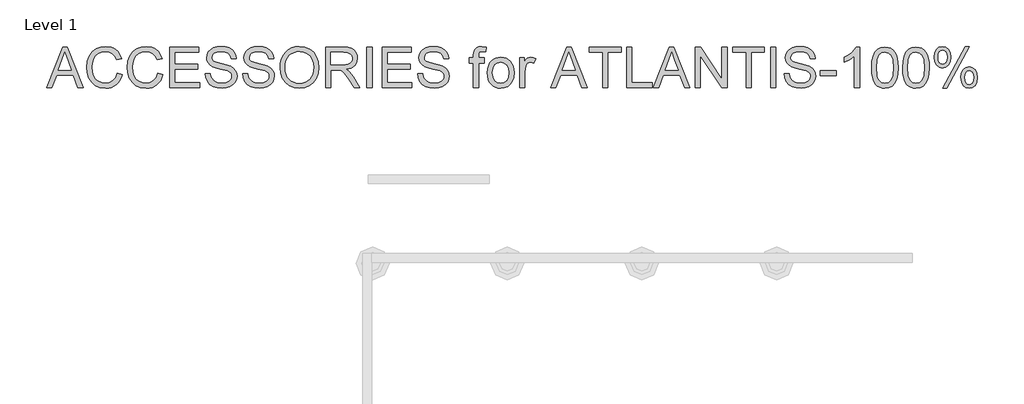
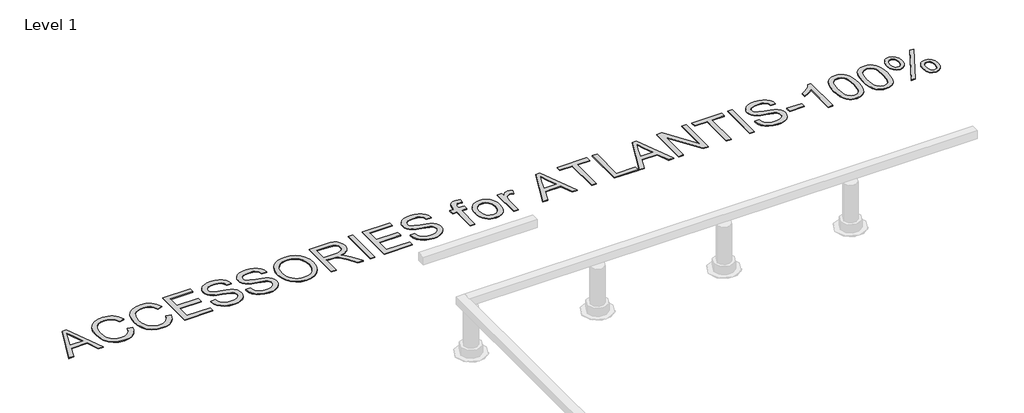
# One storey, part 5 of 6: 1 proxy.
"""IFC4 building model written with IfcOpenShell, lengths in millimetres."""

from ifc_helpers import new_model, si_unit, origin, origin_with_axes, place, context, project, spatial, polyline, outline, extrude, element, save

model = new_model("IFC4")

# Units and contexts
model_context = context("Model", 3, world=origin())
ifc_project = project(units=[si_unit("LENGTHUNIT", "METRE", prefix="MILLI")], contexts=[model_context])

# Site, building, storey
site = spatial("IfcSite", under=ifc_project)
building = spatial("IfcBuilding", under=site)
storey = spatial("IfcBuildingStorey", under=building, Name="Level 1", Elevation=0.0)

# Proxy
placement = place(None, origin())
element("IfcBuildingElementProxy", 1, Name="300mm Arial", ObjectType="300mm Arial", at=placement, inside=storey, context=model_context, shape_type="SweptSolid", body=[
    extrude(outline(polyline([(298.3596666, 106.1819692), (418.657079, 407.5508997), (450.736389, 407.5508997), (571.0338014, 106.1819692), (531.2289695, 106.1819692), (496.7216384, 200.35976), (372.5982532, 200.35976), (338.1644984, 106.1819692), (298.3596666, 106.1819692)]), holes=[polyline([(386.4306162, 238.0308763), (482.9628517, 238.0308763), (455.8131605, 312.1223101), (434.696734, 369.8797834), (415.9347522, 318.5970332), (386.4306162, 238.0308763)])]), origin_with_axes(), (0.0, 0.0, 1.0), 5.0),
    extrude(outline(polyline([(823.1801209, 213.3092062), (860.8512372, 203.5971215), (853.3970283, 180.1699362), (843.4688129, 159.6996025), (831.0665911, 142.1861202), (816.190363, 127.6294895), (799.1758207, 116.1860602), (780.3586566, 108.0121822), (759.7388708, 103.1078553), (737.3164632, 101.4730797), (693.6212792, 106.4210925), (658.92081, 121.265131), (632.3229418, 145.4901604), (612.9355606, 178.5811459), (601.0989574, 217.4846669), (597.153423, 259.1473028), (601.6139922, 303.0908071), (614.9956998, 341.0378349), (636.59957, 371.7835727), (665.7266269, 394.1232068), (700.2707463, 407.7256436), (738.1258036, 412.2597892), (779.4297546, 406.3920714), (797.3984908, 399.0574241), (813.5784008, 388.7889179), (827.7027702, 375.8578658), (839.5048844, 360.5355807), (856.1423476, 322.7173116), (818.4712313, 313.7409909), (805.4114205, 341.2125789), (787.5691437, 360.0573341), (764.7236718, 370.9558382), (736.6542756, 374.5886729), (704.2990541, 370.5603651), (677.71958, 358.4754415), (657.5504496, 339.6030952), (644.4262594, 315.2125189), (637.2249694, 287.6397633), (634.8245393, 259.2208792), (637.6664278, 224.4192425), (646.192093, 194.3264953), (660.7234318, 170.0922688), (681.5823409, 152.8661944), (706.5891196, 142.5746956), (733.5640668, 139.144196), (765.0087804, 143.8162973), (791.2111755, 157.8326013), (810.9940298, 181.0459552), (823.1801209, 213.3092062)])), origin_with_axes(), (0.0, 0.0, 1.0), 5.0),
    extrude(outline(polyline([(1124.5490513, 213.3092062), (1162.2201676, 203.5971215), (1154.7659587, 180.1699362), (1144.8377434, 159.6996025), (1132.4355216, 142.1861202), (1117.5592934, 127.6294895), (1100.5447511, 116.1860602), (1081.7275871, 108.0121822), (1061.1078013, 103.1078553), (1038.6853936, 101.4730797), (994.9902097, 106.4210925), (960.2897405, 121.265131), (933.6918722, 145.4901604), (914.3044911, 178.5811459), (902.4678879, 217.4846669), (898.5223535, 259.1473028), (902.9829227, 303.0908071), (916.3646303, 341.0378349), (937.9685004, 371.7835727), (967.0955574, 394.1232068), (1001.6396767, 407.7256436), (1039.494734, 412.2597892), (1080.798685, 406.3920714), (1098.7674212, 399.0574241), (1114.9473312, 388.7889179), (1129.0717006, 375.8578658), (1140.8738149, 360.5355807), (1157.5112781, 322.7173116), (1119.8401618, 313.7409909), (1106.780351, 341.2125789), (1088.9380742, 360.0573341), (1066.0926023, 370.9558382), (1038.0232061, 374.5886729), (1005.6679846, 370.5603651), (979.0885104, 358.4754415), (958.91938, 339.6030952), (945.7951899, 315.2125189), (938.5938998, 287.6397633), (936.1934698, 259.2208792), (939.0353582, 224.4192425), (947.5610234, 194.3264953), (962.0923623, 170.0922688), (982.9512714, 152.8661944), (1007.95805, 142.5746956), (1034.9329973, 139.144196), (1066.3777108, 143.8162973), (1092.5801059, 157.8326013), (1112.3629602, 181.0459552), (1124.5490513, 213.3092062)])), origin_with_axes(), (0.0, 0.0, 1.0), 5.0),
    extrude(outline(polyline([(1214.0179526, 106.1819692), (1214.0179526, 407.5508997), (1430.6268713, 407.5508997), (1430.6268713, 369.8797834), (1251.6890689, 369.8797834), (1251.6890689, 280.4108821), (1421.2090922, 280.4108821), (1421.2090922, 242.7397658), (1251.6890689, 242.7397658), (1251.6890689, 143.8530855), (1435.3357608, 143.8530855), (1435.3357608, 106.1819692), (1214.0179526, 106.1819692)])), origin_with_axes(), (0.0, 0.0, 1.0), 5.0),
    extrude(outline(polyline([(1477.7157667, 209.7775391), (1515.386883, 209.7775391), (1519.7094964, 188.8726447), (1527.5269888, 172.0696346), (1539.722277, 158.7339122), (1557.1782777, 148.2308813), (1578.5154334, 141.4158673), (1602.3541867, 139.144196), (1623.3418545, 140.8640443), (1641.7175601, 146.0235893), (1656.6075839, 154.1905696), (1667.138206, 164.9327239), (1673.401397, 177.2659677), (1675.4891273, 190.2062169), (1673.9256288, 202.8153723), (1669.2351334, 213.7138764), (1659.7069897, 223.0120938), (1643.6305465, 230.8203892), (1588.779341, 245.2045752), (1552.7728908, 254.7235218), (1529.7342808, 263.782616), (1510.9814961, 276.4561507), (1497.691759, 291.815224), (1489.7730991, 309.5287421), (1487.1335458, 329.2656111), (1490.3984985, 351.3293338), (1500.1933566, 371.9031343), (1516.2606027, 389.3407409), (1538.3427195, 401.9958815), (1564.8486173, 409.6938123), (1594.1872064, 412.2597892), (1625.9722107, 409.5742506), (1653.7840896, 401.517635), (1676.6295615, 388.255489), (1693.5153451, 369.9533598), (1704.202317, 347.7516814), (1708.4513541, 322.790888), (1670.7802378, 322.790888), (1663.8640563, 345.2684779), (1649.443082, 361.4920739), (1626.9103098, 371.3145231), (1595.6587343, 374.5886729), (1563.6713949, 371.3513113), (1541.7272339, 361.6392267), (1529.035305, 347.3470112), (1524.8046621, 330.3692571), (1527.8029003, 315.8931006), (1536.7976151, 304.2496354), (1558.0611944, 293.838575), (1598.3074847, 283.2067853), (1639.841362, 273.1084245), (1664.9677022, 264.2976508), (1686.4428137, 250.6308346), (1701.424808, 233.7634452), (1710.2263847, 213.8794233), (1713.1602436, 191.1627101), (1709.7849263, 167.9401592), (1699.6589744, 146.0971657), (1683.1962551, 127.2983957), (1660.8106357, 113.2085153), (1633.8908707, 104.4069386), (1603.8257146, 101.4730797), (1566.9179535, 104.6368648), (1536.5400977, 114.1282203), (1512.3426595, 129.9839343), (1493.9761509, 152.240795), (1482.1855329, 179.3536981), (1477.7157667, 209.7775391)])), origin_with_axes(), (0.0, 0.0, 1.0), 5.0),
    extrude(outline(polyline([(1755.5402495, 209.7775391), (1793.2113658, 209.7775391), (1797.5339792, 188.8726447), (1805.3514716, 172.0696346), (1817.5467597, 158.7339122), (1835.0027604, 148.2308813), (1856.3399161, 141.4158673), (1880.1786694, 139.144196), (1901.1663372, 140.8640443), (1919.5420429, 146.0235893), (1934.4320667, 154.1905696), (1944.9626888, 164.9327239), (1951.2258797, 177.2659677), (1953.3136101, 190.2062169), (1951.7501116, 202.8153723), (1947.0596161, 213.7138764), (1937.5314725, 223.0120938), (1921.4550293, 230.8203892), (1866.6038238, 245.2045752), (1830.5973735, 254.7235218), (1807.5587636, 263.782616), (1788.8059789, 276.4561507), (1775.5162418, 291.815224), (1767.5975818, 309.5287421), (1764.9580285, 329.2656111), (1768.2229812, 351.3293338), (1778.0178394, 371.9031343), (1794.0850855, 389.3407409), (1816.1672023, 401.9958815), (1842.6731, 409.6938123), (1872.0116891, 412.2597892), (1903.7966935, 409.5742506), (1931.6085723, 401.517635), (1954.4540442, 388.255489), (1971.3398278, 369.9533598), (1982.0267998, 347.7516814), (1986.2758368, 322.790888), (1948.6047205, 322.790888), (1941.688539, 345.2684779), (1927.2675648, 361.4920739), (1904.7347926, 371.3145231), (1873.4832171, 374.5886729), (1841.4958776, 371.3513113), (1819.5517166, 361.6392267), (1806.8597878, 347.3470112), (1802.6291448, 330.3692571), (1805.6273831, 315.8931006), (1814.6220979, 304.2496354), (1835.8856772, 293.838575), (1876.1319675, 283.2067853), (1917.6658447, 273.1084245), (1942.792185, 264.2976508), (1964.2672965, 250.6308346), (1979.2492907, 233.7634452), (1988.0508675, 213.8794233), (1990.9847264, 191.1627101), (1987.6094091, 167.9401592), (1977.4834571, 146.0971657), (1961.0207379, 127.2983957), (1938.6351185, 113.2085153), (1911.7153535, 104.4069386), (1881.6501974, 101.4730797), (1844.7424362, 104.6368648), (1814.3645805, 114.1282203), (1790.1671422, 129.9839343), (1771.8006336, 152.240795), (1760.0100157, 179.3536981), (1755.5402495, 209.7775391)])), origin_with_axes(), (0.0, 0.0, 1.0), 5.0),
    extrude(outline(polyline([(2033.3647322, 252.8933089), (2035.8755268, 288.2421701), (2043.4079107, 319.5351323), (2055.9618838, 346.7721955), (2073.5374461, 369.9533598), (2095.0815354, 388.4624226), (2119.5410896, 401.6831818), (2146.9161085, 409.6156374), (2177.2065923, 412.2597892), (2216.7355127, 407.2933823), (2252.1809429, 392.3941615), (2281.6115026, 368.6105905), (2303.0958111, 336.991133), (2316.2291983, 299.0624993), (2320.606994, 256.3513997), (2315.9992721, 213.0700829), (2302.1761061, 174.6080203), (2279.9008513, 142.9333805), (2249.9368628, 120.0143322), (2214.7949352, 106.1083928), (2176.9858631, 101.4730797), (2136.8499375, 106.5958365), (2101.2021721, 121.9641068), (2071.8451889, 146.1891362), (2050.5816096, 177.8821701), (2037.6689516, 214.3484729), (2033.3647322, 252.8933089)]), holes=[polyline([(2071.0358485, 252.5254269), (2072.9189445, 227.550838), (2078.5682324, 205.3813492), (2087.9837122, 186.0169607), (2101.1653839, 169.4576724), (2117.1889441, 156.1955265), (2135.1300891, 146.7225651), (2154.9888191, 141.0387883), (2176.7651339, 139.144196), (2198.9139293, 141.0571824), (2219.007184, 146.7961415), (2237.0448981, 156.3610734), (2253.0270715, 169.751978), (2266.1121742, 186.6607542), (2275.4586762, 206.7793008), (2281.0665773, 230.1076178), (2282.9358777, 256.6457053), (2279.7353044, 289.9942081), (2270.1335843, 318.8177624), (2254.3790379, 342.3898013), (2232.7199854, 359.9837577), (2206.5911667, 370.9374441), (2177.4273215, 374.5886729), (2156.407464, 372.8297371), (2136.9051198, 367.5529297), (2118.9202887, 358.7582508), (2102.4529709, 346.4457003), (2088.7079799, 330.0220685), (2078.8901291, 308.8941456), (2072.9994187, 283.0619318), (2071.0358485, 252.5254269)])]), origin_with_axes(), (0.0, 0.0, 1.0), 5.0),
    extrude(outline(polyline([(2372.404779, 106.1819692), (2372.404779, 407.5508997), (2502.2671233, 407.5508997), (2537.1699276, 405.5183516), (2562.5629823, 399.4207076), (2581.1226289, 388.1635185), (2595.525209, 370.6523356), (2604.7682442, 348.9381008), (2607.8492559, 325.0717564), (2602.7448932, 295.3836793), (2587.4318051, 270.7723739), (2575.832026, 260.742991), (2561.4501392, 252.727762), (2524.340043, 242.7397658), (2545.7507751, 226.6265344), (2576.2849807, 187.8517722), (2626.5376612, 106.1819692), (2582.7597038, 106.1819692), (2543.5434831, 168.648332), (2515.2165695, 209.9982683), (2495.3141536, 229.5328022), (2477.3983004, 236.7065011), (2455.5461099, 238.0308763), (2410.0758953, 238.0308763), (2410.0758953, 106.1819692), (2372.404779, 106.1819692)]), holes=[polyline([(2410.0758953, 275.7019926), (2494.3944486, 275.7019926), (2518.6102809, 277.0355648), (2537.3998538, 281.0362815), (2551.5449165, 287.9708571), (2561.8272183, 298.1060061), (2568.0904092, 310.3656736), (2570.1781396, 323.6738048), (2566.195817, 342.0495104), (2554.2488492, 356.8567607), (2533.6934427, 366.6240277), (2503.885804, 369.8797834), (2410.0758953, 369.8797834), (2410.0758953, 275.7019926)])]), origin_with_axes(), (0.0, 0.0, 1.0), 5.0),
    extrude(outline(polyline([(2678.482599, 106.1819692), (2678.482599, 407.5508997), (2716.1537153, 407.5508997), (2716.1537153, 106.1819692), (2678.482599, 106.1819692)])), origin_with_axes(), (0.0, 0.0, 1.0), 5.0),
    extrude(outline(polyline([(2791.4959479, 106.1819692), (2791.4959479, 407.5508997), (3008.1048666, 407.5508997), (3008.1048666, 369.8797834), (2829.1670642, 369.8797834), (2829.1670642, 280.4108821), (2998.6870876, 280.4108821), (2998.6870876, 242.7397658), (2829.1670642, 242.7397658), (2829.1670642, 143.8530855), (3012.8137562, 143.8530855), (3012.8137562, 106.1819692), (2791.4959479, 106.1819692)])), origin_with_axes(), (0.0, 0.0, 1.0), 5.0),
    extrude(outline(polyline([(3055.193762, 209.7775391), (3092.8648783, 209.7775391), (3097.1874918, 188.8726447), (3105.0049842, 172.0696346), (3117.2002723, 158.7339122), (3134.656273, 148.2308813), (3155.9934287, 141.4158673), (3179.832182, 139.144196), (3200.8198498, 140.8640443), (3219.1955555, 146.0235893), (3234.0855792, 154.1905696), (3244.6162013, 164.9327239), (3250.8793923, 177.2659677), (3252.9671226, 190.2062169), (3251.4036241, 202.8153723), (3246.7131287, 213.7138764), (3237.184985, 223.0120938), (3221.1085418, 230.8203892), (3166.2573364, 245.2045752), (3130.2508861, 254.7235218), (3107.2122761, 263.782616), (3088.4594914, 276.4561507), (3075.1697543, 291.815224), (3067.2510944, 309.5287421), (3064.6115411, 329.2656111), (3067.8764938, 351.3293338), (3077.6713519, 371.9031343), (3093.7385981, 389.3407409), (3115.8207148, 401.9958815), (3142.3266126, 409.6938123), (3171.6652017, 412.2597892), (3203.4502061, 409.5742506), (3231.2620849, 401.517635), (3254.1075568, 388.255489), (3270.9933404, 369.9533598), (3281.6803123, 347.7516814), (3285.9293494, 322.790888), (3248.2582331, 322.790888), (3241.3420516, 345.2684779), (3226.9210774, 361.4920739), (3204.3883052, 371.3145231), (3173.1367297, 374.5886729), (3141.1493902, 371.3513113), (3119.2052292, 361.6392267), (3106.5133003, 347.3470112), (3102.2826574, 330.3692571), (3105.2808957, 315.8931006), (3114.2756104, 304.2496354), (3135.5391898, 293.838575), (3175.78548, 283.2067853), (3217.3193573, 273.1084245), (3242.4456976, 264.2976508), (3263.920809, 250.6308346), (3278.9028033, 233.7634452), (3287.70438, 213.8794233), (3290.6382389, 191.1627101), (3287.2629216, 167.9401592), (3277.1369697, 146.0971657), (3260.6742504, 127.2983957), (3238.288631, 113.2085153), (3211.368866, 104.4069386), (3181.30371, 101.4730797), (3144.3959488, 104.6368648), (3114.018093, 114.1282203), (3089.8206548, 129.9839343), (3071.4541462, 152.240795), (3059.6635283, 179.3536981), (3055.193762, 209.7775391)])), origin_with_axes(), (0.0, 0.0, 1.0), 5.0),
    extrude(outline(polyline([(3469.5760414, 106.1819692), (3469.5760414, 289.8286612), (3436.6138146, 289.8286612), (3436.6138146, 327.4997775), (3469.5760414, 327.4997775), (3469.5760414, 349.7934264), (3473.5491669, 381.2105488), (3481.127536, 393.7369308), (3492.8261835, 403.6513505), (3509.1969323, 410.1076795), (3530.7916054, 412.2597892), (3565.1517837, 408.1395109), (3559.6335538, 372.8228393), (3537.9285161, 374.5886729), (3523.6087094, 373.0251744), (3514.2001274, 368.334679), (3508.9854001, 359.3767524), (3507.2471577, 345.0109605), (3507.2471577, 327.4997775), (3549.6271635, 327.4997775), (3549.6271635, 289.8286612), (3507.2471577, 289.8286612), (3507.2471577, 106.1819692), (3469.5760414, 106.1819692)])), origin_with_axes(), (0.0, 0.0, 1.0), 5.0),
    extrude(outline(polyline([(3573.1716112, 216.8408734), (3575.2087578, 245.5034793), (3581.3201974, 270.2021568), (3591.5059302, 290.9369057), (3605.765956, 307.7077262), (3620.1225509, 318.4268878), (3635.9690678, 326.0834318), (3653.3055068, 330.6773583), (3672.1318679, 332.2086671), (3692.9149014, 330.3439652), (3711.7067736, 324.7498596), (3728.5074844, 315.4263503), (3743.317034, 302.3734373), (3755.4042568, 286.0325789), (3764.0379874, 266.8452336), (3769.2182257, 244.8114013), (3770.9449718, 219.9310821), (3767.8915513, 181.8736897), (3758.7312896, 152.9029826), (3743.7309012, 131.2071419), (3723.1571007, 114.9743489), (3698.7205391, 104.848397), (3672.1318679, 101.4730797), (3651.0453318, 103.3308838), (3632.0787157, 108.904296), (3615.2320196, 118.1933164), (3600.5052435, 131.1979449), (3588.5467794, 147.6974524), (3580.0050193, 167.4711096), (3574.8799632, 190.5189166), (3573.1716112, 216.8408734)]), holes=[polyline([(3610.8427275, 216.9144498), (3615.2021292, 182.8209859), (3628.2803341, 158.5315771), (3647.9620208, 143.9910413), (3672.1318679, 139.144196), (3696.1913504, 144.0186324), (3715.8362489, 158.6419417), (3728.9144539, 183.2532472), (3733.2738555, 218.0916722), (3728.8868627, 251.1918547), (3715.7258844, 275.1501696), (3696.0533947, 289.6907055), (3672.1318679, 294.5375508), (3647.9620208, 289.7090996), (3628.2803341, 275.223746), (3615.2021292, 250.9895196), (3610.8427275, 216.9144498)])]), origin_with_axes(), (0.0, 0.0, 1.0), 5.0),
    extrude(outline(polyline([(3813.3249777, 106.1819692), (3813.3249777, 327.4997775), (3846.2872044, 327.4997775), (3846.2872044, 294.75828), (3858.4640985, 313.7409909), (3869.6844993, 324.9246036), (3880.9416884, 330.3876512), (3893.228947, 332.2086671), (3911.9909288, 329.3023993), (3931.0472161, 320.583596), (3918.4656519, 286.8120289), (3905.2219001, 292.6061703), (3891.9781482, 294.5375508), (3880.7301562, 292.6797467), (3870.6777807, 287.1063345), (3862.5567857, 278.2403784), (3857.1029351, 266.5049427), (3852.5228043, 245.4620926), (3850.996094, 222.5062561), (3850.996094, 106.1819692), (3813.3249777, 106.1819692)])), origin_with_axes(), (0.0, 0.0, 1.0), 5.0),
    extrude(outline(polyline([(4041.9268495, 106.1819692), (4162.2242619, 407.5508997), (4194.3035719, 407.5508997), (4314.6009843, 106.1819692), (4274.7961524, 106.1819692), (4240.2888213, 200.35976), (4116.1654361, 200.35976), (4081.7316814, 106.1819692), (4041.9268495, 106.1819692)]), holes=[polyline([(4129.9977991, 238.0308763), (4226.5300347, 238.0308763), (4199.3803434, 312.1223101), (4178.2639169, 369.8797834), (4159.5019351, 318.5970332), (4129.9977991, 238.0308763)])]), origin_with_axes(), (0.0, 0.0, 1.0), 5.0),
    extrude(outline(polyline([(4430.1895072, 106.1819692), (4430.1895072, 369.8797834), (4331.3028269, 369.8797834), (4331.3028269, 407.5508997), (4566.7473038, 407.5508997), (4566.7473038, 369.8797834), (4467.8606235, 369.8797834), (4467.8606235, 106.1819692), (4430.1895072, 106.1819692)])), origin_with_axes(), (0.0, 0.0, 1.0), 5.0),
    extrude(outline(polyline([(4609.1273096, 106.1819692), (4609.1273096, 407.5508997), (4646.7984259, 407.5508997), (4646.7984259, 143.8530855), (4797.4828912, 143.8530855), (4797.4828912, 106.1819692), (4609.1273096, 106.1819692)])), origin_with_axes(), (0.0, 0.0, 1.0), 5.0),
    extrude(outline(polyline([(4804.7669547, 106.1819692), (4925.0643671, 407.5508997), (4957.1436771, 407.5508997), (5077.4410895, 106.1819692), (5037.6362576, 106.1819692), (5003.1289265, 200.35976), (4879.0055413, 200.35976), (4844.5717866, 106.1819692), (4804.7669547, 106.1819692)]), holes=[polyline([(4892.8379043, 238.0308763), (4989.3701399, 238.0308763), (4962.2204486, 312.1223101), (4941.1040221, 369.8797834), (4922.3420403, 318.5970332), (4892.8379043, 238.0308763)])]), origin_with_axes(), (0.0, 0.0, 1.0), 5.0),
    extrude(outline(polyline([(5117.6873798, 106.1819692), (5117.6873798, 407.5508997), (5158.0072464, 407.5508997), (5315.4607404, 168.7954848), (5315.4607404, 407.5508997), (5353.1318567, 407.5508997), (5353.1318567, 106.1819692), (5312.81199, 106.1819692), (5155.3584961, 345.0109605), (5155.3584961, 106.1819692), (5117.6873798, 106.1819692)])), origin_with_axes(), (0.0, 0.0, 1.0), 5.0),
    extrude(outline(polyline([(5494.3985428, 106.1819692), (5494.3985428, 369.8797834), (5395.5118625, 369.8797834), (5395.5118625, 407.5508997), (5630.9563394, 407.5508997), (5630.9563394, 369.8797834), (5532.0696591, 369.8797834), (5532.0696591, 106.1819692), (5494.3985428, 106.1819692)])), origin_with_axes(), (0.0, 0.0, 1.0), 5.0),
    extrude(outline(polyline([(5678.0452348, 106.1819692), (5678.0452348, 407.5508997), (5715.7163511, 407.5508997), (5715.7163511, 106.1819692), (5678.0452348, 106.1819692)])), origin_with_axes(), (0.0, 0.0, 1.0), 5.0),
    extrude(outline(polyline([(5776.9319151, 209.7775391), (5814.6030314, 209.7775391), (5818.9256449, 188.8726447), (5826.7431373, 172.0696346), (5838.9384254, 158.7339122), (5856.3944261, 148.2308813), (5877.7315818, 141.4158673), (5901.5703351, 139.144196), (5922.5580029, 140.8640443), (5940.9337086, 146.0235893), (5955.8237323, 154.1905696), (5966.3543544, 164.9327239), (5972.6175454, 177.2659677), (5974.7052757, 190.2062169), (5973.1417773, 202.8153723), (5968.4512818, 213.7138764), (5958.9231381, 223.0120938), (5942.846695, 230.8203892), (5887.9954895, 245.2045752), (5851.9890392, 254.7235218), (5828.9504292, 263.782616), (5810.1976445, 276.4561507), (5796.9079075, 291.815224), (5788.9892475, 309.5287421), (5786.3496942, 329.2656111), (5789.6146469, 351.3293338), (5799.409505, 371.9031343), (5815.4767512, 389.3407409), (5837.5588679, 401.9958815), (5864.0647657, 409.6938123), (5893.4033548, 412.2597892), (5925.1883592, 409.5742506), (5953.000238, 401.517635), (5975.8457099, 388.255489), (5992.7314935, 369.9533598), (6003.4184655, 347.7516814), (6007.6675025, 322.790888), (5969.9963862, 322.790888), (5963.0802047, 345.2684779), (5948.6592305, 361.4920739), (5926.1264583, 371.3145231), (5894.8748828, 374.5886729), (5862.8875433, 371.3513113), (5840.9433823, 361.6392267), (5828.2514535, 347.3470112), (5824.0208105, 330.3692571), (5827.0190488, 315.8931006), (5836.0137636, 304.2496354), (5857.2773429, 293.838575), (5897.5236331, 283.2067853), (5939.0575104, 273.1084245), (5964.1838507, 264.2976508), (5985.6589621, 250.6308346), (6000.6409564, 233.7634452), (6009.4425331, 213.8794233), (6012.376392, 191.1627101), (6009.0010747, 167.9401592), (5998.8751228, 146.0971657), (5982.4124035, 127.2983957), (5960.0267841, 113.2085153), (5933.1070191, 104.4069386), (5903.0418631, 101.4730797), (5866.1341019, 104.6368648), (5835.7562462, 114.1282203), (5811.5588079, 129.9839343), (5793.1922993, 152.240795), (5781.4016814, 179.3536981), (5776.9319151, 209.7775391)])), origin_with_axes(), (0.0, 0.0, 1.0), 5.0),
    extrude(outline(polyline([(6045.3386188, 195.6508705), (6045.3386188, 233.3219868), (6163.0608573, 233.3219868), (6163.0608573, 195.6508705), (6045.3386188, 195.6508705)])), origin_with_axes(), (0.0, 0.0, 1.0), 5.0),
    extrude(outline(polyline([(6337.2897702, 106.1819692), (6299.6186539, 106.1819692), (6299.6186539, 341.0378349), (6263.9341003, 315.6171891), (6224.2764213, 296.5976899), (6224.2764213, 332.2086671), (6253.8633307, 348.3035043), (6279.4955087, 367.4517622), (6299.7014273, 387.8140306), (6313.0095585, 407.5508997), (6337.2897702, 407.5508997), (6337.2897702, 106.1819692)])), origin_with_axes(), (0.0, 0.0, 1.0), 5.0),
    extrude(outline(polyline([(6426.7586714, 254.4384133), (6429.5269834, 302.6769399), (6437.8319195, 341.1481995), (6451.5907061, 370.4408034), (6470.7205698, 391.1433627), (6495.3594665, 403.4490154), (6525.6453517, 407.5508997), (6548.8587056, 405.1228785), (6569.6440383, 397.838815), (6587.0264626, 385.9838177), (6600.0310911, 369.8429952), (6609.8535404, 349.5543031), (6617.6894269, 325.2556974), (6622.8213807, 294.399595), (6624.532032, 254.4384133), (6621.7913112, 206.4757982), (6613.5691486, 168.096509), (6599.8931354, 138.776314), (6580.7908628, 117.9909813), (6556.0967839, 105.6025551), (6525.6453517, 101.4730797), (6504.8968072, 103.2665044), (6486.5027074, 108.6467786), (6470.4630524, 117.6139022), (6456.7778422, 130.1678753), (6443.644455, 152.8615959), (6434.2634641, 181.1379257), (6428.6348696, 214.9968649), (6426.7586714, 254.4384133)]), holes=[polyline([(6464.4297877, 254.5119897), (6468.8443717, 195.2553973), (6474.3626016, 174.9873986), (6482.0881235, 160.9595983), (6501.8065984, 144.5980466), (6525.6453517, 139.144196), (6549.484105, 144.6164407), (6569.2025799, 161.0331747), (6576.9281018, 175.0839677), (6582.4463318, 195.3473678), (6586.8609157, 254.5119897), (6582.5934846, 312.4350098), (6577.2591956, 332.6363299), (6569.7911911, 346.9975233), (6550.1095044, 364.1592183), (6525.2038933, 369.8797834), (6501.6226574, 364.8398), (6482.6767347, 349.71985), (6474.6936954, 334.0848652), (6468.9915245, 313.0052269), (6464.4297877, 254.5119897)])]), origin_with_axes(), (0.0, 0.0, 1.0), 5.0),
    extrude(outline(polyline([(6657.4942588, 254.4384133), (6660.2625708, 302.6769399), (6668.5675068, 341.1481995), (6682.3262935, 370.4408034), (6701.4561572, 391.1433627), (6726.0950538, 403.4490154), (6756.3809391, 407.5508997), (6779.594293, 405.1228785), (6800.3796257, 397.838815), (6817.76205, 385.9838177), (6830.7666785, 369.8429952), (6840.5891278, 349.5543031), (6848.4250143, 325.2556974), (6853.5569681, 294.399595), (6855.2676194, 254.4384133), (6852.5268985, 206.4757982), (6844.3047359, 168.096509), (6830.6287228, 138.776314), (6811.5264502, 117.9909813), (6786.8323712, 105.6025551), (6756.3809391, 101.4730797), (6735.6323946, 103.2665044), (6717.2382948, 108.6467786), (6701.1986398, 117.6139022), (6687.5134296, 130.1678753), (6674.3800424, 152.8615959), (6664.9990515, 181.1379257), (6659.370457, 214.9968649), (6657.4942588, 254.4384133)]), holes=[polyline([(6695.1653751, 254.5119897), (6699.579959, 195.2553973), (6705.098189, 174.9873986), (6712.8237109, 160.9595983), (6732.5421858, 144.5980466), (6756.3809391, 139.144196), (6780.2196924, 144.6164407), (6799.9381673, 161.0331747), (6807.6636892, 175.0839677), (6813.1819191, 195.3473678), (6817.5965031, 254.5119897), (6813.3290719, 312.4350098), (6807.994783, 332.6363299), (6800.5267785, 346.9975233), (6780.8450918, 364.1592183), (6755.9394807, 369.8797834), (6732.3582448, 364.8398), (6713.412322, 349.71985), (6705.4292828, 334.0848652), (6699.7271118, 313.0052269), (6695.1653751, 254.5119897)])]), origin_with_axes(), (0.0, 0.0, 1.0), 5.0),
    extrude(outline(polyline([(7090.7120963, 183.6579174), (7094.5656602, 213.815044), (7106.1263519, 238.9505813), (7114.7094987, 248.8489062), (7125.0446835, 255.9191383), (7150.9711671, 261.575324), (7175.5272903, 256.4893554), (7195.4848885, 241.2314497), (7208.7286404, 216.1143064), (7213.1432243, 181.4506254), (7208.6826551, 147.4031468), (7195.3009475, 122.2216242), (7175.3341522, 106.6602158), (7151.1183199, 101.4730797), (7127.3807342, 106.6142306), (7107.9657619, 122.0376832), (7095.0255127, 147.7250435), (7090.7120963, 183.6579174)]), holes=[polyline([(7151.9276603, 233.3219868), (7138.8862436, 230.4709013), (7128.3096362, 221.9176449), (7121.3014842, 205.7492312), (7118.9654335, 180.0526739), (7121.3290754, 156.5634085), (7128.4200008, 141.1307588), (7138.969017, 132.5775024), (7151.7069311, 129.7264169), (7164.9138947, 132.5775024), (7175.5456844, 141.1307588), (7182.5538364, 157.2439902), (7184.8898871, 182.7750006), (7182.5262452, 206.5677687), (7175.4353198, 222.0280095), (7164.8311213, 230.4984924), (7151.9276603, 233.3219868)])]), origin_with_axes(), (0.0, 0.0, 1.0), 5.0),
    extrude(outline(polyline([(6954.2278761, 101.4730797), (7121.2463019, 412.2597892), (7152.6634243, 412.2597892), (6985.6449985, 101.4730797), (6954.2278761, 101.4730797)])), origin_with_axes(), (0.0, 0.0, 1.0), 5.0),
    extrude(outline(polyline([(6892.9387357, 334.3423826), (6896.7922996, 364.3615534), (6908.3529913, 389.5246819), (6916.926941, 399.4712914), (6927.2345347, 406.5760124), (6953.0506537, 412.2597892), (6977.7171415, 407.1738206), (6997.7115279, 391.9159149), (7010.9552797, 366.7987717), (7015.3698637, 332.1350907), (7010.9000974, 298.087612), (6997.4907987, 272.9060894), (6977.5515946, 257.344681), (6953.4921121, 252.1575449), (6929.690147, 257.2711046), (6910.2291895, 272.6117838), (6897.2613491, 298.271553), (6892.9387357, 334.3423826)]), holes=[polyline([(6954.0807233, 384.006452), (6941.1404741, 381.1553665), (6930.5730638, 372.6021101), (6923.5373206, 356.4336964), (6921.1920729, 330.7371391), (6923.5649118, 307.1099179), (6930.6834284, 291.7048594), (6941.2784299, 283.2343765), (6954.0807233, 280.4108821), (6967.1313371, 283.2619676), (6977.7355356, 291.815224), (6984.7712787, 307.9284554), (6987.1165265, 333.4594658), (6984.7436876, 357.2522339), (6977.625171, 372.7124747), (6966.9933813, 381.1829577), (6954.0807233, 384.006452)])]), origin_with_axes(), (0.0, 0.0, 1.0), 5.0),
])

save(model, "model.ifc")
